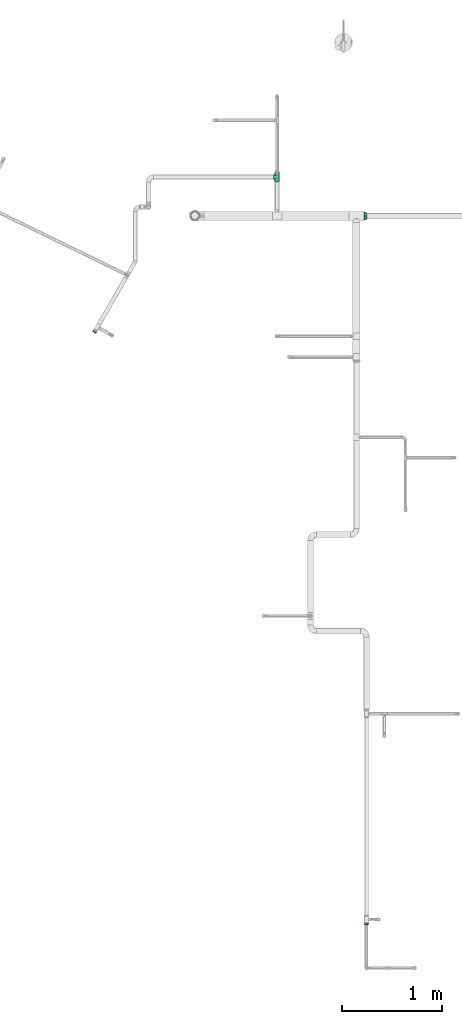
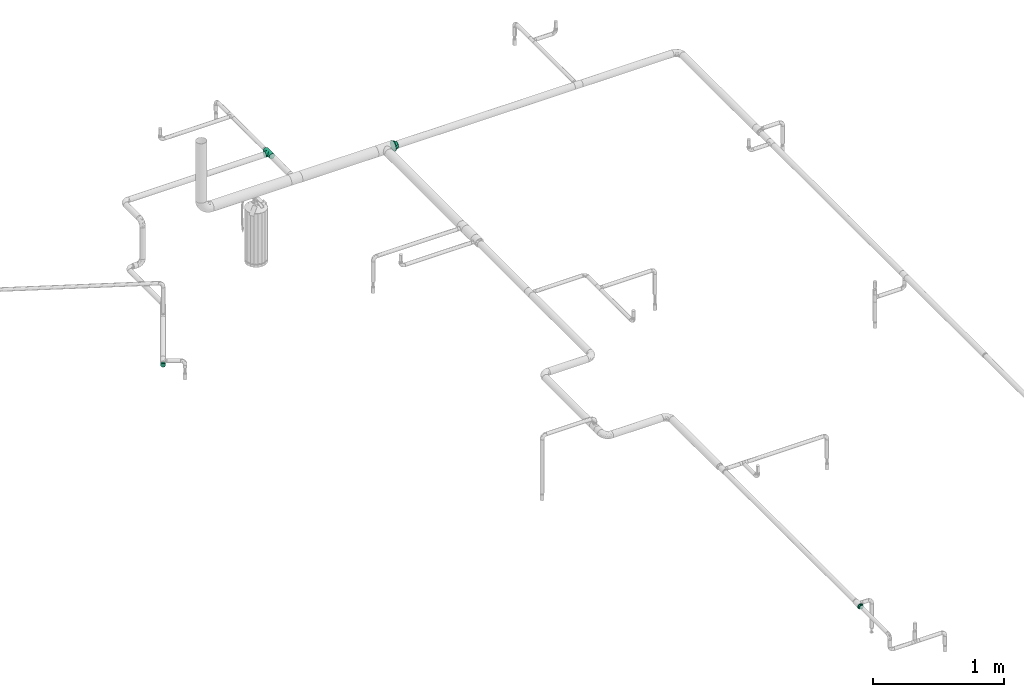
# One storey, part 42 of 43: 4 flow fittings.
"""IFC2X3 building model written with IfcOpenShell, lengths in millimetres."""

from ifc_helpers import new_model, entity, si_unit, converted_unit, derived_unit, direction, frame, origin_with_axes, place, context, subcontext, project, spatial, open_shell, surface_model, source, transform, mapped, type_object, element, save


model = new_model("IFC2X3")

# Units and contexts
model_context = context("Model", 3, precision=0.01, world=frame((0.0, 4.29681676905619e-09, 0.0)), true_north=direction((4.01073788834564e-13, 1.0)))
plan_context = context("Plan", 3, precision=0.01, world=frame((0.0, 4.29681676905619e-09, 0.0)), true_north=direction((4.01073788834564e-13, 1.0)))
body_context = subcontext(model_context, "Body", "Model", "MODEL_VIEW")
ifc_project = project(units=[converted_unit("PLANEANGLEUNIT", "DEGREE", entity("IfcPositiveLengthMeasure", 0.0174532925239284), si_unit("PLANEANGLEUNIT", "RADIAN"), dimensions=[0, 0, 0, 0, 0, 0, 0]), si_unit("AREAUNIT", "SQUARE_METRE"), si_unit("LENGTHUNIT", "METRE", prefix="MILLI"), si_unit("MASSUNIT", "GRAM", prefix="KILO"), si_unit("POWERUNIT", "WATT"), si_unit("PRESSUREUNIT", "PASCAL"), si_unit("FORCEUNIT", "NEWTON", prefix="KILO"), si_unit("ELECTRICVOLTAGEUNIT", "VOLT"), si_unit("ELECTRICCURRENTUNIT", "AMPERE"), si_unit("THERMODYNAMICTEMPERATUREUNIT", "DEGREE_CELSIUS"), si_unit("TIMEUNIT", "SECOND"), si_unit("VOLUMEUNIT", "CUBIC_METRE"), derived_unit("LINEARVELOCITYUNIT", [(si_unit("LENGTHUNIT", "METRE"), 1), (si_unit("TIMEUNIT", "SECOND"), -1)]), derived_unit("VOLUMETRICFLOWRATEUNIT", [(si_unit("VOLUMEUNIT", "CUBIC_METRE"), 1), (si_unit("TIMEUNIT", "SECOND"), -1)]), derived_unit("THERMALTRANSMITTANCEUNIT", [(si_unit("POWERUNIT", "WATT"), 1), (si_unit("THERMODYNAMICTEMPERATUREUNIT", "KELVIN"), -1), (si_unit("AREAUNIT", "SQUARE_METRE"), -1)]), derived_unit("SOUNDPRESSUREUNIT", [(si_unit("PRESSUREUNIT", "PASCAL"), 1)])], contexts=[model_context, plan_context])

# Site, building, storey
site_placement = place(None, frame((0.0, -4.29681676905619e-09, 0.0), z_axis=(0.0, 0.0, 1.0), x_axis=(1.0, 0.0, 0.0)))
site = spatial("IfcSite", under=ifc_project, at=site_placement, CompositionType="ELEMENT")
building_placement = place(site_placement, frame((0.0, 4.29681676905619e-09, 0.0), z_axis=(0.0, 0.0, 1.0), x_axis=(1.0, 0.0, 0.0)))
building = spatial("IfcBuilding", under=site, at=building_placement, Name="mc-building", CompositionType="ELEMENT")
storey_placement = place(building_placement, frame((0.0, 0.0, 210900.0), z_axis=(0.0, 0.0, 1.0), x_axis=(1.0, 0.0, 0.0)))
storey = spatial("IfcBuildingStorey", under=building, at=storey_placement, Name="Nivå F", CompositionType="ELEMENT", Elevation=210900.0)

# Flow fittings
pipe_fitting_type_1 = type_object("IfcPipeFittingType", Name="magi_pipe_fe_tee_centric_90_NOR", PredefinedType="JUNCTION")
shared_shape_1 = source(origin_with_axes(), body_context, "Body", "SurfaceModel", [
    surface_model("IfcShellBasedSurfaceModel", [(-48.4, 12.1, -20.95781), (-48.4, 6.26342, -23.37541), (-48.4, 17.11198, -17.11198), (-48.4, -20.95781, 12.1), (-48.4, -17.11198, 17.11198), (-48.4, -23.37541, 6.26342), (-48.4, 6.26342, 23.37541), (-48.4, 12.1, 20.95781), (-48.4, 0.0, 24.2), (-48.4, 0.0, -24.2), (-48.4, -6.26342, -23.37541), (-48.4, 20.95781, -12.1), (-48.4, -23.37541, -6.26342), (-48.4, 23.37541, -6.26342), (-48.4, -12.1, -20.95781), (-48.4, -17.11198, -17.11198), (-48.4, -20.95781, -12.1), (-48.4, -24.2, 0.0), (-48.4, 20.95781, 12.1), (-48.4, 23.37541, 6.26342), (-48.4, 24.2, 0.0), (-48.4, 17.11198, 17.11198), (-48.4, -12.1, 20.95781), (-48.4, -6.26342, 23.37541), (48.4, 6.26342, -23.37541), (48.4, -6.26342, -23.37541), (48.4, 0.0, -24.2), (48.4, 17.11198, -17.11198), (48.4, 12.1, -20.95781), (48.4, -23.37541, -6.26342), (48.4, 20.95781, -12.1), (48.4, 23.37541, -6.26342), (48.4, -17.11198, -17.11198), (48.4, -12.1, -20.95781), (48.4, -20.95781, -12.1), (48.4, -24.2, 0.0), (48.4, 24.2, 0.0), (48.4, 23.37541, 6.26342), (48.4, 20.95781, 12.1), (48.4, -23.37541, 6.26342), (48.4, -17.11198, 17.11198), (48.4, 12.1, 20.95781), (48.4, 17.11198, 17.11198), (48.4, 6.26342, 23.37541), (48.4, -20.95781, 12.1), (48.4, -12.1, 20.95781), (48.4, 0.0, 24.2), (48.4, -6.26342, 23.37541), (23.32218, -23.32218, 6.45878), (24.2, -24.2, 0.0), (20.94524, -20.94524, 12.12176), (13.56365, -13.56365, 20.04164), (17.56065, -17.56065, 16.65123), (-24.2, -24.2, 0.0), (-23.32218, -23.32218, 6.45878), (-20.94524, -20.94524, 12.12176), (-17.56065, -17.56065, 16.65123), (-13.56365, -13.56365, 20.04164), (-9.20594, -9.20594, 22.38059), (9.20594, -9.20594, 22.38059), (4.647, -4.647, 23.74964), (0.0, 0.0, 24.2), (-4.647, -4.647, 23.74964), (4.647, -4.647, -23.74964), (0.0, 0.0, -24.2), (-4.647, -4.647, -23.74964), (-9.20594, -9.20594, -22.38059), (9.20594, -9.20594, -22.38059), (13.56365, -13.56365, -20.04164), (17.56065, -17.56065, -16.65123), (20.94524, -20.94524, -12.12176), (23.32218, -23.32218, -6.45878), (-13.56365, -13.56365, -20.04164), (-17.56065, -17.56065, -16.65123), (-23.32218, -23.32218, -6.45878), (-20.94524, -20.94524, -12.12176), (0.0, -36.3, -24.2), (6.26342, -36.3, -23.37541), (12.1, -36.3, -20.95781), (12.1, -36.3, 20.95781), (17.11198, -36.3, -17.11198), (20.95781, -36.3, -12.1), (23.37541, -36.3, -6.26342), (-12.1, -36.3, -20.95781), (-20.95781, -36.3, -12.1), (-17.11198, -36.3, -17.11198), (-6.26342, -36.3, -23.37541), (-23.37541, -36.3, -6.26342), (-24.2, -36.3, 0.0), (24.2, -36.3, 0.0), (23.37541, -36.3, 6.26342), (20.95781, -36.3, 12.1), (-23.37541, -36.3, 6.26342), (17.11198, -36.3, 17.11198), (6.26342, -36.3, 23.37541), (-17.11198, -36.3, 17.11198), (-20.95781, -36.3, 12.1), (-12.1, -36.3, 20.95781), (0.0, -36.3, 24.2), (-6.26342, -36.3, 23.37541)], [open_shell([[[0, 1, 2]], [[3, 4, 5]], [[6, 7, 4]], [[4, 8, 6]], [[9, 10, 1]], [[11, 1, 12]], [[2, 1, 11]], [[13, 11, 12]], [[14, 15, 10]], [[16, 10, 15]], [[10, 16, 1]], [[16, 12, 1]], [[12, 17, 13]], [[17, 5, 13]], [[18, 19, 20]], [[18, 20, 5]], [[7, 21, 4]], [[5, 21, 18]], [[4, 21, 5]], [[22, 23, 4]], [[8, 4, 23]], [[13, 5, 20]], [[24, 25, 26]], [[27, 24, 28]], [[29, 24, 30]], [[30, 24, 27]], [[29, 30, 31]], [[25, 32, 33]], [[32, 25, 34]], [[24, 34, 25]], [[24, 29, 34]], [[31, 35, 29]], [[31, 36, 35]], [[36, 37, 38]], [[39, 36, 38]], [[40, 38, 41]], [[41, 38, 42]], [[40, 41, 43]], [[39, 40, 44]], [[39, 38, 40]], [[45, 46, 47]], [[46, 45, 40]], [[43, 46, 40]], [[36, 39, 35]], [[39, 44, 48]], [[35, 39, 49]], [[49, 39, 48]], [[44, 50, 48]], [[40, 45, 51]], [[50, 44, 52]], [[51, 52, 40]], [[52, 44, 40]], [[53, 54, 5]], [[53, 5, 17]], [[5, 54, 3]], [[54, 55, 3]], [[56, 57, 4]], [[4, 3, 56]], [[4, 57, 22]], [[56, 3, 55]], [[22, 57, 58]], [[51, 45, 59]], [[60, 46, 61]], [[59, 47, 60]], [[47, 59, 45]], [[60, 47, 46]], [[61, 46, 43]], [[38, 37, 19]], [[21, 41, 42]], [[18, 42, 38]], [[43, 41, 7]], [[20, 37, 36]], [[62, 61, 8]], [[62, 23, 58]], [[23, 62, 8]], [[58, 23, 22]], [[61, 6, 8]], [[43, 6, 61]], [[7, 6, 43]], [[7, 41, 21]], [[18, 21, 42]], [[19, 18, 38]], [[37, 20, 19]], [[27, 2, 30]], [[31, 13, 36]], [[31, 30, 11]], [[0, 27, 28]], [[26, 25, 63]], [[26, 64, 24]], [[64, 26, 63]], [[28, 24, 1]], [[64, 1, 24]], [[13, 31, 11]], [[30, 2, 11]], [[2, 27, 0]], [[36, 13, 20]], [[65, 66, 10]], [[9, 1, 64]], [[9, 65, 10]], [[66, 14, 10]], [[1, 0, 28]], [[9, 64, 65]], [[63, 25, 67]], [[33, 32, 68]], [[69, 68, 32]], [[34, 70, 69]], [[69, 32, 34]], [[33, 68, 67]], [[29, 35, 49]], [[29, 71, 34]], [[71, 29, 49]], [[34, 71, 70]], [[72, 14, 66]], [[72, 15, 14]], [[15, 72, 73]], [[15, 73, 16]], [[74, 53, 12]], [[75, 74, 16]], [[74, 12, 16]], [[12, 53, 17]], [[75, 16, 73]], [[33, 67, 25]], [[76, 77, 78]], [[79, 76, 78]], [[80, 81, 82]], [[80, 82, 78]], [[79, 83, 76]], [[83, 84, 85]], [[83, 86, 76]], [[83, 87, 84]], [[87, 83, 88]], [[83, 79, 88]], [[89, 78, 82]], [[89, 90, 91]], [[89, 91, 79]], [[79, 92, 88]], [[79, 91, 93]], [[92, 79, 94]], [[92, 95, 96]], [[92, 94, 95]], [[97, 98, 99]], [[98, 97, 95]], [[94, 98, 95]], [[79, 78, 89]], [[88, 92, 53]], [[54, 53, 92]], [[95, 97, 57]], [[54, 92, 96]], [[95, 56, 96]], [[58, 97, 99]], [[55, 54, 96]], [[56, 55, 96]], [[58, 57, 97]], [[98, 61, 62]], [[58, 99, 62]], [[56, 95, 57]], [[62, 99, 98]], [[60, 98, 94]], [[79, 59, 94]], [[91, 90, 48]], [[52, 93, 91]], [[51, 79, 93]], [[49, 90, 89]], [[59, 60, 94]], [[51, 59, 79]], [[49, 48, 90]], [[50, 52, 91]], [[48, 50, 91]], [[51, 93, 52]], [[98, 60, 61]], [[89, 82, 49]], [[71, 49, 82]], [[69, 81, 80]], [[80, 78, 68]], [[81, 71, 82]], [[67, 78, 77]], [[70, 71, 81]], [[69, 70, 81]], [[67, 68, 78]], [[76, 64, 63]], [[67, 77, 63]], [[69, 80, 68]], [[63, 77, 76]], [[65, 76, 86]], [[83, 66, 86]], [[84, 87, 74]], [[73, 85, 84]], [[72, 83, 85]], [[53, 87, 88]], [[66, 65, 86]], [[72, 66, 83]], [[53, 74, 87]], [[75, 73, 84]], [[74, 75, 84]], [[72, 85, 73]], [[76, 65, 64]]])]),
])
flow_fitting_1_placement = place(storey_placement, frame((606986.48955, 697625.26176, 2660.0), z_axis=(0.0, 0.0, 1.0), x_axis=(0.0, -1.0, 0.0)))
element("IfcFlowFitting", 1, at=flow_fitting_1_placement, inside=storey, type_object=pipe_fitting_type_1, Name="magi_pipe_fe_tee_centric_90_NOR", context=body_context, shape_type="MappedRepresentation", body=[
    mapped(shared_shape_1, transform((0.0, 0.0, 0.0), scale=1.0)),
])
pipe_fitting_type_2 = type_object("IfcPipeFittingType", Name="magi_pipe_fe_reducer_centric_short_NOR", PredefinedType="TRANSITION")
shared_shape_2 = source(origin_with_axes(), body_context, "Body", "SurfaceModel", [
    surface_model("IfcShellBasedSurfaceModel", [(-2.0, 0.0, 44.5), (-2.0, 11.51745, 42.9837), (-2.0, 22.25, 38.53813), (-2.0, 31.46625, 31.46625), (-2.0, 38.53813, 22.25), (-2.0, 42.9837, 11.51745), (-2.0, -42.9837, 11.51745), (-2.0, -11.51745, 42.9837), (-2.0, -31.46625, 31.46625), (-2.0, -22.25, 38.53813), (-2.0, -38.53813, 22.25), (-2.0, -42.9837, -11.51745), (-2.0, -44.5, 0.0), (-2.0, 11.51745, -42.9837), (-2.0, 44.5, 0.0), (-2.0, 42.9837, -11.51745), (-2.0, 38.53813, -22.25), (-2.0, 31.46625, -31.46625), (-2.0, 22.25, -38.53813), (-2.0, 0.0, -44.5), (-2.0, -31.46625, -31.46625), (-2.0, -38.53813, -22.25), (-2.0, -22.25, -38.53813), (-2.0, -11.51745, -42.9837), (0.0, 22.25, -38.53813), (0.0, -42.9837, -11.51745), (0.0, 11.51745, -42.9837), (0.0, 42.9837, -11.51745), (0.0, 31.46625, -31.46625), (0.0, 44.5, 0.0), (0.0, 38.53813, -22.25), (0.0, 0.0, -44.5), (0.0, -22.25, -38.53813), (0.0, -11.51745, -42.9837), (0.0, -31.46625, -31.46625), (0.0, -38.53813, -22.25), (0.0, 42.9837, 11.51745), (0.0, 38.53813, 22.25), (0.0, 31.46625, 31.46625), (0.0, -42.9837, 11.51745), (0.0, 22.25, 38.53813), (0.0, 11.51745, 42.9837), (0.0, 0.0, 44.5), (0.0, -31.46625, 31.46625), (0.0, -38.53813, 22.25), (0.0, -44.5, 0.0), (0.0, -11.51745, 42.9837), (0.0, -22.25, 38.53813), (30.6, 7.81634, -29.17096), (30.6, 15.1, -26.15397), (30.6, 21.35462, -21.35462), (30.6, 30.2, 0.0), (30.6, 26.15397, -15.1), (30.6, 29.17096, -7.81634), (30.6, -15.1, -26.15397), (30.6, -29.17096, 7.81634), (30.6, 0.0, -30.2), (30.6, -7.81634, -29.17096), (30.6, -21.35462, -21.35462), (30.6, -29.17096, -7.81634), (30.6, -26.15397, -15.1), (30.6, 29.17096, 7.81634), (30.6, 26.15397, 15.1), (30.6, 21.35462, 21.35462), (30.6, -21.35462, 21.35462), (30.6, 15.1, 26.15397), (30.6, 7.81634, 29.17096), (30.6, 0.0, 30.2), (30.6, -26.15397, 15.1), (30.6, -30.2, 0.0), (30.6, -7.81634, 29.17096), (30.6, -15.1, 26.15397), (28.6, 0.0, 30.2), (28.6, 7.81634, 29.17096), (28.6, 15.1, 26.15397), (28.6, 21.35462, 21.35462), (28.6, 26.15397, 15.1), (28.6, 29.17096, 7.81634), (28.6, -29.17096, 7.81634), (28.6, 30.2, 0.0), (28.6, -7.81634, 29.17096), (28.6, -21.35462, 21.35462), (28.6, -15.1, 26.15397), (28.6, -26.15397, 15.1), (28.6, -30.2, 0.0), (28.6, 29.17096, -7.81634), (28.6, 26.15397, -15.1), (28.6, 21.35462, -21.35462), (28.6, 15.1, -26.15397), (28.6, 7.81634, -29.17096), (28.6, -15.1, -26.15397), (28.6, -29.17096, -7.81634), (28.6, -21.35462, -21.35462), (28.6, -26.15397, -15.1), (28.6, 0.0, -30.2), (28.6, -7.81634, -29.17096), (28.6, -9.33231, 28.72191), (28.6, -24.43231, 17.75111), (28.6, 24.43231, 17.75111), (28.6, 9.33231, 28.72191), (28.6, -9.33231, -28.72191), (28.6, -24.43231, -17.75111), (28.6, 9.33231, -28.72191), (28.6, 24.43231, -17.75111), (0.0, 11.125, -41.51906), (0.0, -11.125, -41.51906), (28.6, 0.0, -28.72191), (28.6, 16.88231, -23.23651), (0.0, 30.39407, -30.39407), (28.6, 27.31616, -8.87556), (0.0, 41.1844, -12.37401), (28.6, -16.88231, -23.23651), (28.6, -27.31616, -8.87556), (0.0, -41.1844, -12.37401), (0.0, -30.39407, -30.39407), (0.0, -11.125, 41.51906), (0.0, 11.125, 41.51906), (28.6, 0.0, 28.72191), (28.6, -16.88231, 23.23651), (0.0, -30.39407, 30.39407), (28.6, -27.31616, 8.87556), (0.0, -41.1844, 12.37401), (28.6, 16.88231, 23.23651), (28.6, 27.31616, 8.87556), (0.0, 41.1844, 12.37401), (0.0, 30.39407, 30.39407)], [open_shell([[[0, 1, 2]], [[0, 2, 3]], [[3, 4, 5]], [[0, 3, 6]], [[6, 3, 5]], [[7, 8, 9]], [[7, 0, 8]], [[8, 6, 10]], [[0, 6, 8]], [[6, 11, 12]], [[6, 5, 11]], [[13, 14, 15]], [[13, 15, 16]], [[17, 18, 13]], [[17, 13, 16]], [[14, 13, 19]], [[11, 20, 21]], [[20, 11, 22]], [[22, 19, 23]], [[19, 22, 11]], [[11, 14, 19]], [[14, 11, 5]], [[24, 25, 26]], [[27, 24, 28]], [[27, 29, 24]], [[27, 28, 30]], [[25, 24, 29]], [[31, 32, 33]], [[32, 31, 25]], [[34, 25, 35]], [[25, 34, 32]], [[31, 26, 25]], [[29, 36, 25]], [[36, 37, 38]], [[39, 36, 38]], [[40, 41, 42]], [[40, 42, 38]], [[39, 38, 42]], [[39, 43, 44]], [[45, 25, 39]], [[43, 46, 47]], [[43, 39, 42]], [[46, 43, 42]], [[39, 25, 36]], [[11, 25, 12]], [[21, 35, 11]], [[32, 20, 22]], [[21, 20, 34]], [[33, 22, 23]], [[11, 35, 25]], [[25, 45, 12]], [[33, 32, 22]], [[34, 20, 32]], [[34, 35, 21]], [[31, 33, 23]], [[23, 19, 31]], [[13, 26, 19]], [[18, 24, 13]], [[30, 17, 16]], [[18, 17, 28]], [[27, 16, 15]], [[18, 28, 24]], [[24, 26, 13]], [[29, 27, 15]], [[30, 16, 27]], [[30, 28, 17]], [[14, 29, 15]], [[19, 26, 31]], [[5, 36, 14]], [[4, 37, 5]], [[40, 3, 2]], [[4, 3, 38]], [[41, 2, 1]], [[5, 37, 36]], [[36, 29, 14]], [[41, 40, 2]], [[38, 3, 40]], [[38, 37, 4]], [[42, 41, 1]], [[1, 0, 42]], [[7, 46, 0]], [[9, 47, 7]], [[44, 8, 10]], [[9, 8, 43]], [[39, 10, 6]], [[9, 43, 47]], [[47, 46, 7]], [[45, 39, 6]], [[44, 10, 39]], [[44, 43, 8]], [[12, 45, 6]], [[0, 46, 42]], [[44, 37, 45]], [[37, 31, 45]], [[37, 24, 31]], [[32, 35, 45]], [[45, 31, 32]], [[48, 49, 50]], [[48, 50, 51]], [[52, 53, 51]], [[52, 51, 50]], [[54, 48, 55]], [[56, 54, 57]], [[56, 48, 54]], [[58, 59, 60]], [[59, 58, 54]], [[54, 55, 59]], [[55, 48, 51]], [[61, 62, 63]], [[51, 63, 64]], [[65, 66, 67]], [[64, 63, 65]], [[64, 65, 67]], [[55, 64, 68]], [[69, 59, 55]], [[64, 70, 71]], [[55, 51, 64]], [[70, 64, 67]], [[61, 63, 51]], [[72, 73, 74]], [[72, 74, 75]], [[75, 76, 77]], [[72, 75, 78]], [[79, 78, 75]], [[80, 81, 82]], [[80, 72, 81]], [[81, 78, 83]], [[72, 78, 81]], [[78, 79, 84]], [[79, 75, 77]], [[79, 85, 86]], [[79, 86, 87]], [[87, 88, 89]], [[87, 89, 79]], [[89, 90, 84]], [[91, 92, 93]], [[92, 91, 90]], [[90, 94, 95]], [[91, 84, 90]], [[89, 94, 90]], [[84, 79, 89]], [[91, 59, 84]], [[93, 60, 91]], [[54, 92, 90]], [[93, 92, 58]], [[57, 90, 95]], [[91, 60, 59]], [[59, 69, 84]], [[57, 54, 90]], [[58, 92, 54]], [[58, 60, 93]], [[56, 57, 95]], [[95, 94, 56]], [[89, 48, 94]], [[88, 49, 89]], [[52, 87, 86]], [[88, 87, 50]], [[53, 86, 85]], [[88, 50, 49]], [[49, 48, 89]], [[51, 53, 85]], [[52, 86, 53]], [[52, 50, 87]], [[79, 51, 85]], [[94, 48, 56]], [[77, 61, 79]], [[76, 62, 77]], [[65, 75, 74]], [[76, 75, 63]], [[66, 74, 73]], [[77, 62, 61]], [[61, 51, 79]], [[66, 65, 74]], [[63, 75, 65]], [[63, 62, 76]], [[67, 66, 73]], [[73, 72, 67]], [[80, 70, 72]], [[82, 71, 80]], [[68, 81, 83]], [[82, 81, 64]], [[55, 83, 78]], [[82, 64, 71]], [[71, 70, 80]], [[69, 55, 78]], [[68, 83, 55]], [[68, 64, 81]], [[84, 69, 78]], [[72, 70, 67]], [[96, 97, 79]], [[96, 98, 99]], [[98, 96, 79]], [[97, 100, 79]], [[97, 101, 100]], [[102, 103, 79]], [[79, 100, 102]], [[101, 97, 84]], [[47, 42, 40]], [[44, 40, 37]], [[40, 44, 47]], [[30, 24, 37]], [[29, 30, 37]], [[104, 24, 102]], [[100, 105, 106]], [[107, 108, 103]], [[30, 109, 103]], [[110, 79, 109]], [[32, 100, 111]], [[30, 110, 109]], [[35, 112, 113]], [[108, 107, 24]], [[30, 103, 108]], [[113, 112, 84]], [[101, 35, 114]], [[79, 110, 29]], [[100, 32, 105]], [[107, 102, 24]], [[114, 111, 101]], [[112, 35, 101]], [[84, 45, 113]], [[32, 111, 114]], [[106, 105, 31]], [[104, 106, 31]], [[106, 104, 102]], [[115, 47, 96]], [[99, 116, 117]], [[118, 119, 97]], [[44, 120, 97]], [[121, 84, 120]], [[40, 99, 122]], [[44, 121, 120]], [[37, 123, 124]], [[119, 118, 47]], [[44, 97, 119]], [[124, 123, 79]], [[98, 37, 125]], [[84, 121, 45]], [[99, 40, 116]], [[118, 96, 47]], [[125, 122, 98]], [[123, 37, 98]], [[79, 29, 124]], [[40, 122, 125]], [[117, 116, 42]], [[115, 117, 42]], [[117, 115, 96]]])]),
])
flow_fitting_2_placement = place(storey_placement, frame((607855.77252, 697236.30413, 2660.0), z_axis=(0.0, 0.0, 1.0), x_axis=(1.0, 0.0, 0.0)))
element("IfcFlowFitting", 2, at=flow_fitting_2_placement, inside=storey, type_object=pipe_fitting_type_2, Name="magi_pipe_fe_reducer_centric_short_NOR", context=body_context, shape_type="MappedRepresentation", body=[
    mapped(shared_shape_2, transform((0.0, 0.0, 0.0), scale=1.0)),
])
pipe_fitting_type_3 = type_object("IfcPipeFittingType", Name="magi_sewer_endcap_001", PredefinedType="OBSTRUCTION")
shared_shape_3 = source(origin_with_axes(), body_context, "Body", "SurfaceModel", [
    surface_model("IfcShellBasedSurfaceModel", [(20.0, 9.375, -16.23798), (20.0, -18.75, 0.0), (20.0, 4.85286, -18.11111), (20.0, 18.75, 0.0), (20.0, 13.25825, -13.25825), (20.0, 18.11111, -4.85286), (20.0, 16.23798, -9.375), (20.0, -18.11111, -4.85286), (20.0, 0.0, -18.75), (20.0, -9.375, -16.23798), (20.0, -4.85286, -18.11111), (20.0, -16.23798, -9.375), (20.0, -13.25825, -13.25825), (20.0, 18.11111, 4.85286), (20.0, 16.23798, 9.375), (20.0, 13.25825, 13.25825), (20.0, 9.375, 16.23798), (20.0, 4.85286, 18.11111), (20.0, 0.0, 18.75), (20.0, -16.23798, 9.375), (20.0, -18.11111, 4.85286), (20.0, -13.25825, 13.25825), (20.0, -9.375, 16.23798), (20.0, -4.85286, 18.11111), (0.0, 0.0, 18.75), (0.0, 4.85286, 18.11111), (0.0, 9.375, 16.23798), (0.0, 13.25825, 13.25825), (0.0, 16.23798, 9.375), (0.0, 18.11111, 4.85286), (0.0, -13.25825, 13.25825), (0.0, -18.11111, -4.85286), (0.0, -9.375, 16.23798), (0.0, -4.85286, 18.11111), (0.0, -16.23798, 9.375), (0.0, -18.75, 0.0), (0.0, -18.11111, 4.85286), (0.0, 18.11111, -4.85286), (0.0, 4.85286, -18.11111), (0.0, 16.23798, -9.375), (0.0, 13.25825, -13.25825), (0.0, 9.375, -16.23798), (0.0, -16.23798, -9.375), (0.0, -9.375, -16.23798), (0.0, -13.25825, -13.25825), (0.0, 0.0, -18.75), (0.0, -4.85286, -18.11111), (0.0, 18.75, 0.0)], [open_shell([[[0, 1, 2]], [[3, 0, 4]], [[5, 3, 4]], [[5, 4, 6]], [[7, 2, 1]], [[8, 9, 10]], [[8, 2, 9]], [[9, 11, 12]], [[11, 9, 7]], [[2, 7, 9]], [[13, 0, 3]], [[13, 14, 15]], [[13, 15, 16]], [[16, 17, 18]], [[16, 1, 0]], [[1, 16, 18]], [[1, 19, 20]], [[19, 1, 21]], [[18, 22, 21]], [[21, 1, 18]], [[23, 22, 18]], [[16, 0, 13]], [[24, 25, 26]], [[24, 26, 27]], [[27, 28, 29]], [[27, 29, 24]], [[30, 24, 31]], [[24, 32, 33]], [[24, 30, 32]], [[34, 35, 36]], [[35, 34, 30]], [[30, 31, 35]], [[31, 24, 29]], [[31, 29, 37]], [[38, 37, 39]], [[40, 41, 38]], [[40, 38, 39]], [[31, 37, 38]], [[42, 43, 44]], [[43, 42, 31]], [[43, 45, 46]], [[43, 31, 38]], [[38, 45, 43]], [[37, 29, 47]], [[31, 7, 35]], [[42, 11, 31]], [[9, 44, 43]], [[42, 44, 12]], [[10, 43, 46]], [[31, 11, 7]], [[7, 1, 35]], [[10, 9, 43]], [[12, 44, 9]], [[12, 11, 42]], [[8, 10, 46]], [[46, 45, 8]], [[38, 2, 45]], [[41, 0, 38]], [[6, 40, 39]], [[41, 40, 4]], [[5, 39, 37]], [[41, 4, 0]], [[0, 2, 38]], [[47, 3, 5]], [[6, 39, 5]], [[6, 4, 40]], [[37, 47, 5]], [[45, 2, 8]], [[29, 13, 47]], [[28, 14, 29]], [[16, 27, 26]], [[28, 27, 15]], [[17, 26, 25]], [[29, 14, 13]], [[13, 3, 47]], [[17, 16, 26]], [[15, 27, 16]], [[15, 14, 28]], [[18, 17, 25]], [[25, 24, 18]], [[24, 33, 23]], [[19, 34, 36]], [[34, 21, 30]], [[20, 36, 35]], [[23, 32, 22]], [[32, 23, 33]], [[32, 30, 22]], [[30, 21, 22]], [[34, 19, 21]], [[20, 19, 36]], [[35, 1, 20]], [[24, 23, 18]]])]),
])
flow_fitting_3_placement = place(storey_placement, frame((605169.3528, 696089.46302, 2270.0), z_axis=(0.0, 0.0, 1.0), x_axis=(-0.500000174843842, -0.866025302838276, 0.0)))
element("IfcFlowFitting", 3, at=flow_fitting_3_placement, inside=storey, type_object=pipe_fitting_type_3, Name="magi_sewer_endcap_001", context=body_context, shape_type="MappedRepresentation", body=[
    mapped(shared_shape_3, transform((0.0, 0.0, 0.0), scale=1.0)),
])
shared_shape_4 = source(origin_with_axes(), body_context, "Body", "SurfaceModel", [
    surface_model("IfcShellBasedSurfaceModel", [(-2.0, 11.9501, 11.9501), (-2.0, 0.0, 16.9), (-2.0, 4.37404, 16.32415), (-2.0, 8.45, 14.63583), (-2.0, 14.63583, 8.45), (-2.0, 16.32415, 4.37404), (-2.0, -16.32415, 4.37404), (-2.0, -8.45, 14.63583), (-2.0, -14.63583, 8.45), (-2.0, -11.9501, 11.9501), (-2.0, -4.37404, 16.32415), (-2.0, -16.32415, -4.37404), (-2.0, -16.9, 0.0), (-2.0, -8.45, -14.63583), (-2.0, 16.32415, -4.37404), (-2.0, 11.9501, -11.9501), (-2.0, 14.63583, -8.45), (-2.0, 8.45, -14.63583), (-2.0, 4.37404, -16.32415), (-2.0, 0.0, -16.9), (-2.0, -11.9501, -11.9501), (-2.0, -14.63583, -8.45), (-2.0, -4.37404, -16.32415), (-2.0, 16.9, 0.0), (0.0, 4.37404, -16.32415), (0.0, 8.45, -14.63583), (0.0, 11.9501, -11.9501), (0.0, 0.0, -16.9), (0.0, 16.32415, -4.37404), (0.0, 16.32415, 4.37404), (0.0, 14.63583, -8.45), (0.0, -8.45, -14.63583), (0.0, -4.37404, -16.32415), (0.0, -11.9501, -11.9501), (0.0, -16.32415, -4.37404), (0.0, -14.63583, -8.45), (0.0, -16.32415, 4.37404), (0.0, 16.9, 0.0), (0.0, 14.63583, 8.45), (0.0, 11.9501, 11.9501), (0.0, 4.37404, 16.32415), (0.0, 8.45, 14.63583), (0.0, 0.0, 16.9), (0.0, -14.63583, 8.45), (0.0, -16.9, 0.0), (0.0, -8.45, 14.63583), (0.0, -11.9501, 11.9501), (0.0, -4.37404, 16.32415), (16.6, 12.1, -20.95781), (16.6, -24.2, 0.0), (16.6, 6.26342, -23.37541), (16.6, 23.37541, -6.26342), (16.6, 17.11198, -17.11198), (16.6, 20.95781, -12.1), (16.6, -17.11198, -17.11198), (16.6, -6.26342, -23.37541), (16.6, -12.1, -20.95781), (16.6, 0.0, -24.2), (16.6, -23.37541, -6.26342), (16.6, -20.95781, -12.1), (16.6, 24.2, 0.0), (16.6, 23.37541, 6.26342), (16.6, 20.95781, 12.1), (16.6, 17.11198, 17.11198), (16.6, 12.1, 20.95781), (16.6, 6.26342, 23.37541), (16.6, 0.0, 24.2), (16.6, -23.37541, 6.26342), (16.6, -17.11198, 17.11198), (16.6, -20.95781, 12.1), (16.6, -6.26342, 23.37541), (16.6, -12.1, 20.95781), (14.6, 0.0, 24.2), (14.6, 6.26342, 23.37541), (14.6, 12.1, 20.95781), (14.6, 17.11198, 17.11198), (14.6, 20.95781, 12.1), (14.6, 23.37541, 6.26342), (14.6, -23.37541, 6.26342), (14.6, -17.11198, -17.11198), (14.6, -6.26342, 23.37541), (14.6, -17.11198, 17.11198), (14.6, -12.1, 20.95781), (14.6, -20.95781, 12.1), (14.6, -24.2, 0.0), (14.6, 24.2, 0.0), (14.6, 17.11198, -17.11198), (14.6, 23.37541, -6.26342), (14.6, 20.95781, -12.1), (14.6, 12.1, -20.95781), (14.6, 6.26342, -23.37541), (14.6, -23.37541, -6.26342), (14.6, -20.95781, -12.1), (14.6, -6.26342, -23.37541), (14.6, -12.1, -20.95781), (14.6, 0.0, -24.2), (14.6, 7.47821, 23.01557), (14.6, -7.47821, 23.01557), (14.6, 19.57821, -14.2244), (14.6, 19.57821, 14.2244), (14.6, -19.57821, 14.2244), (14.6, -19.57821, -14.2244), (14.6, 7.47821, -23.01557), (14.6, -7.47821, -23.01557), (0.0, 13.18758, -8.96258), (0.0, -5.97505, -14.42505), (14.6, -13.52821, -18.61999), (0.0, 14.42505, -5.97505), (14.6, 21.8891, -7.1122), (14.6, 20.73366, -10.6683), (0.0, -8.96258, -13.18758), (0.0, -14.42505, -5.97505), (0.0, -13.18758, -8.96258), (14.6, 0.0, -23.01557), (0.0, -2.98753, -15.66253), (14.6, 13.52821, -18.61999), (0.0, -15.66253, -2.98753), (14.6, -21.8891, -7.1122), (0.0, 2.98753, -15.66253), (0.0, 15.66253, -2.98753), (0.0, 5.97505, -14.42505), (0.0, 8.96258, -13.18758), (0.0, -13.18758, 8.96258), (0.0, 5.97505, 14.42505), (14.6, 13.52821, 18.61999), (0.0, -14.42505, 5.97505), (14.6, -21.8891, 7.1122), (14.6, -20.73366, 10.6683), (0.0, 8.96258, 13.18758), (0.0, 14.42505, 5.97505), (0.0, 13.18758, 8.96258), (14.6, 0.0, 23.01557), (0.0, 2.98753, 15.66253), (14.6, -13.52821, 18.61999), (0.0, 15.66253, 2.98753), (14.6, 21.8891, 7.1122), (0.0, -2.98753, 15.66253), (0.0, -15.66253, 2.98753), (0.0, -5.97505, 14.42505), (0.0, -8.96258, 13.18758)], [open_shell([[[0, 1, 2]], [[0, 2, 3]], [[0, 4, 5]], [[0, 5, 1]], [[1, 5, 6]], [[7, 8, 9]], [[7, 10, 1]], [[8, 7, 1]], [[1, 6, 8]], [[6, 11, 12]], [[6, 5, 13]], [[5, 14, 15]], [[15, 14, 16]], [[15, 17, 18]], [[13, 5, 15]], [[19, 15, 18]], [[11, 20, 21]], [[20, 11, 13]], [[13, 19, 22]], [[11, 6, 13]], [[15, 19, 13]], [[5, 23, 14]], [[24, 25, 26]], [[27, 24, 26]], [[26, 28, 29]], [[28, 26, 30]], [[26, 29, 31]], [[27, 31, 32]], [[27, 26, 31]], [[33, 34, 35]], [[34, 33, 31]], [[31, 36, 34]], [[29, 28, 37]], [[29, 38, 39]], [[29, 39, 40]], [[40, 36, 31]], [[40, 39, 41]], [[36, 40, 42]], [[42, 43, 36]], [[44, 34, 36]], [[43, 45, 46]], [[43, 42, 45]], [[45, 42, 47]], [[31, 29, 40]], [[11, 34, 12]], [[21, 35, 11]], [[31, 20, 13]], [[21, 20, 33]], [[32, 13, 22]], [[11, 35, 34]], [[34, 44, 12]], [[32, 31, 13]], [[33, 20, 31]], [[33, 35, 21]], [[27, 32, 22]], [[22, 19, 27]], [[18, 24, 19]], [[17, 25, 18]], [[30, 15, 16]], [[17, 15, 26]], [[28, 16, 14]], [[17, 26, 25]], [[25, 24, 18]], [[37, 28, 14]], [[30, 16, 28]], [[30, 26, 15]], [[23, 37, 14]], [[19, 24, 27]], [[5, 29, 23]], [[4, 38, 5]], [[41, 0, 3]], [[4, 0, 39]], [[40, 3, 2]], [[5, 38, 29]], [[29, 37, 23]], [[40, 41, 3]], [[39, 0, 41]], [[39, 38, 4]], [[42, 40, 2]], [[2, 1, 42]], [[10, 47, 1]], [[7, 45, 10]], [[43, 9, 8]], [[7, 9, 46]], [[36, 8, 6]], [[7, 46, 45]], [[45, 47, 10]], [[44, 36, 6]], [[43, 8, 36]], [[43, 46, 9]], [[12, 44, 6]], [[1, 47, 42]], [[33, 44, 46]], [[37, 26, 33]], [[27, 33, 26]], [[37, 33, 42]], [[48, 49, 50]], [[51, 48, 52]], [[48, 51, 49]], [[51, 52, 53]], [[49, 54, 50]], [[55, 54, 56]], [[55, 57, 50]], [[54, 58, 59]], [[55, 50, 54]], [[54, 49, 58]], [[60, 49, 51]], [[61, 62, 63]], [[60, 63, 49]], [[64, 65, 66]], [[64, 66, 63]], [[49, 63, 66]], [[67, 68, 69]], [[70, 67, 49]], [[68, 70, 71]], [[70, 68, 67]], [[49, 66, 70]], [[63, 60, 61]], [[72, 73, 74]], [[72, 74, 75]], [[75, 76, 77]], [[72, 75, 78]], [[75, 79, 78]], [[80, 81, 82]], [[80, 72, 81]], [[81, 78, 83]], [[72, 78, 81]], [[78, 79, 84]], [[75, 77, 85]], [[86, 85, 87]], [[86, 87, 88]], [[89, 90, 85]], [[89, 85, 86]], [[90, 79, 75]], [[91, 79, 92]], [[84, 79, 91]], [[79, 93, 94]], [[79, 90, 93]], [[95, 93, 90]], [[75, 85, 90]], [[91, 58, 84]], [[92, 59, 91]], [[56, 79, 94]], [[92, 79, 54]], [[55, 94, 93]], [[91, 59, 58]], [[58, 49, 84]], [[55, 56, 94]], [[54, 79, 56]], [[54, 59, 92]], [[57, 55, 93]], [[93, 95, 57]], [[90, 50, 95]], [[89, 48, 90]], [[53, 86, 88]], [[89, 86, 52]], [[51, 88, 87]], [[89, 52, 48]], [[48, 50, 90]], [[60, 51, 87]], [[53, 88, 51]], [[53, 52, 86]], [[85, 60, 87]], [[95, 50, 57]], [[77, 61, 85]], [[76, 62, 77]], [[64, 75, 74]], [[76, 75, 63]], [[65, 74, 73]], [[77, 62, 61]], [[61, 60, 85]], [[65, 64, 74]], [[63, 75, 64]], [[63, 62, 76]], [[66, 65, 73]], [[73, 72, 66]], [[80, 70, 72]], [[82, 71, 80]], [[69, 81, 83]], [[82, 81, 68]], [[67, 83, 78]], [[82, 68, 71]], [[71, 70, 80]], [[49, 67, 78]], [[69, 83, 67]], [[69, 68, 81]], [[84, 49, 78]], [[72, 70, 66]], [[96, 97, 84]], [[96, 98, 99]], [[85, 99, 98]], [[100, 84, 97]], [[84, 101, 98]], [[101, 102, 98]], [[102, 101, 103]], [[84, 98, 96]], [[46, 42, 33]], [[37, 42, 39]], [[98, 26, 104]], [[105, 103, 106]], [[107, 108, 109]], [[106, 110, 105]], [[101, 111, 112]], [[106, 101, 33]], [[113, 114, 27]], [[112, 33, 101]], [[26, 98, 115]], [[84, 116, 117]], [[118, 113, 27]], [[85, 119, 37]], [[111, 101, 117]], [[115, 120, 121]], [[119, 85, 108]], [[113, 118, 102]], [[103, 105, 114]], [[103, 114, 113]], [[118, 120, 102]], [[116, 84, 44]], [[107, 119, 108]], [[98, 104, 109]], [[104, 107, 109]], [[106, 33, 110]], [[120, 115, 102]], [[121, 26, 115]], [[116, 111, 117]], [[100, 46, 122]], [[123, 96, 124]], [[125, 126, 127]], [[124, 128, 123]], [[99, 129, 130]], [[124, 99, 39]], [[131, 132, 42]], [[130, 39, 99]], [[46, 100, 133]], [[85, 134, 135]], [[136, 131, 42]], [[84, 137, 44]], [[129, 99, 135]], [[133, 138, 139]], [[137, 84, 126]], [[131, 136, 97]], [[96, 123, 132]], [[96, 132, 131]], [[136, 138, 97]], [[134, 85, 37]], [[125, 137, 126]], [[100, 122, 127]], [[122, 125, 127]], [[124, 39, 128]], [[138, 133, 97]], [[139, 46, 133]], [[134, 129, 135]]])]),
])
flow_fitting_4_placement = place(storey_placement, frame((607879.57252, 690150.48194, 2660.0), z_axis=(0.0, 0.0, 1.0), x_axis=(0.0, 1.0, 0.0)))
element("IfcFlowFitting", 4, at=flow_fitting_4_placement, inside=storey, type_object=pipe_fitting_type_2, Name="magi_pipe_fe_reducer_centric_short_NOR", context=body_context, shape_type="MappedRepresentation", body=[
    mapped(shared_shape_4, transform((0.0, 0.0, 0.0), scale=1.0)),
])

save(model, "model.ifc")
